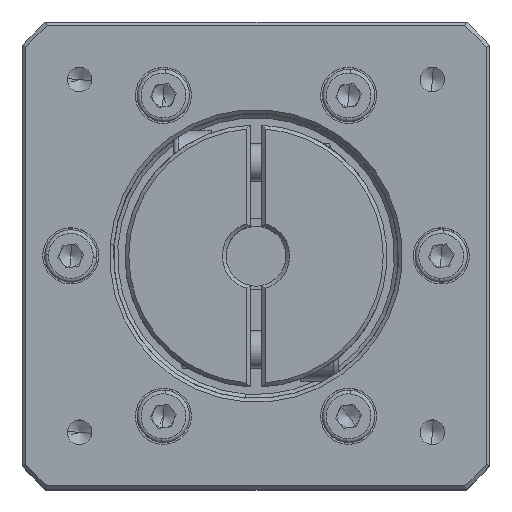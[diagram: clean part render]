
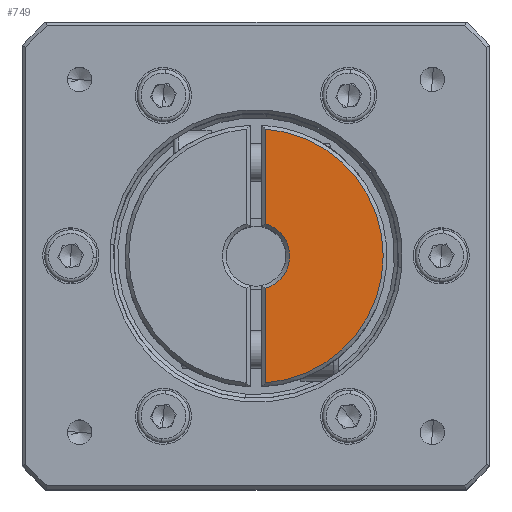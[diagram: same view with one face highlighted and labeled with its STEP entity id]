
A CAD part, top view. The second image highlights one B-rep face of the part: STEP entity #749.
In plain terms, the highlighted planar face has unit normal (0, 0, 1).
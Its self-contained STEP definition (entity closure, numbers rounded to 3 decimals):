
#749 = ADVANCED_FACE ( 'NONE', ( #85598 ), #88127, .F. ) ;
#3301 = CARTESIAN_POINT ( 'NONE',  ( -26.37, 4.341, 185.002 ) ) ;
#5512 = VERTEX_POINT ( 'NONE', #32681 ) ;
#5713 = EDGE_CURVE ( 'NONE', #20542, #5512, #78320, .T. ) ;
#6091 = LINE ( 'NONE', #38104, #47483 ) ;
#8598 = EDGE_CURVE ( 'NONE', #62288, #10951, #22568, .T. ) ;
#10951 = VERTEX_POINT ( 'NONE', #45470 ) ;
#11682 = DIRECTION ( 'NONE',  ( -0.078, -0.997, 0. ) ) ;
#13865 = CARTESIAN_POINT ( 'NONE',  ( -26.37, -13.159, 185.002 ) ) ;
#20542 = VERTEX_POINT ( 'NONE', #105754 ) ;
#22149 = DIRECTION ( 'NONE',  ( 0.997, -0.078, 0. ) ) ;
#22568 = CIRCLE ( 'NONE', #54683, 4.5 ) ;
#25613 = DIRECTION ( 'NONE',  ( 0., 0., 1. ) ) ;
#28227 = EDGE_LOOP ( 'NONE', ( #58594, #51046, #38910, #31529 ) ) ;
#31529 = ORIENTED_EDGE ( 'NONE', *, *, #86877, .T. ) ;
#32681 = CARTESIAN_POINT ( 'NONE',  ( -25.12, -12.613, 185.002 ) ) ;
#35907 = EDGE_CURVE ( 'NONE', #20542, #10951, #73439, .T. ) ;
#38104 = CARTESIAN_POINT ( 'NONE',  ( -25.12, 0.018, 185.002 ) ) ;
#38910 = ORIENTED_EDGE ( 'NONE', *, *, #8598, .F. ) ;
#40675 = CARTESIAN_POINT ( 'NONE',  ( -25.12, 21.295, 185.002 ) ) ;
#42487 = VECTOR ( 'NONE', #107093, 1000. ) ;
#45470 = CARTESIAN_POINT ( 'NONE',  ( -25.12, 8.664, 185.002 ) ) ;
#46351 = DIRECTION ( 'NONE',  ( 0., -1., 0. ) ) ;
#47483 = VECTOR ( 'NONE', #46351, 1000. ) ;
#51046 = ORIENTED_EDGE ( 'NONE', *, *, #35907, .T. ) ;
#54683 = AXIS2_PLACEMENT_3D ( 'NONE', #75182, #25613, #83604 ) ;
#58594 = ORIENTED_EDGE ( 'NONE', *, *, #5713, .F. ) ;
#61276 = DIRECTION ( 'NONE',  ( 0., 0., -1. ) ) ;
#62288 = VERTEX_POINT ( 'NONE', #79982 ) ;
#67567 = AXIS2_PLACEMENT_3D ( 'NONE', #3301, #61276, #11682 ) ;
#71360 = AXIS2_PLACEMENT_3D ( 'NONE', #13865, #71771, #22149 ) ;
#71771 = DIRECTION ( 'NONE',  ( 0., 0., -1. ) ) ;
#73439 = LINE ( 'NONE', #40675, #42487 ) ;
#75182 = CARTESIAN_POINT ( 'NONE',  ( -26.37, 4.341, 185.002 ) ) ;
#78320 = CIRCLE ( 'NONE', #67567, 17. ) ;
#79982 = CARTESIAN_POINT ( 'NONE',  ( -25.12, 0.018, 185.002 ) ) ;
#83604 = DIRECTION ( 'NONE',  ( 0.078, 0.997, 0. ) ) ;
#85598 = FACE_OUTER_BOUND ( 'NONE', #28227, .T. ) ;
#86877 = EDGE_CURVE ( 'NONE', #62288, #5512, #6091, .T. ) ;
#88127 = PLANE ( 'NONE',  #71360 ) ;
#105754 = CARTESIAN_POINT ( 'NONE',  ( -25.12, 21.295, 185.002 ) ) ;
#107093 = DIRECTION ( 'NONE',  ( 0., -1., 0. ) ) ;
